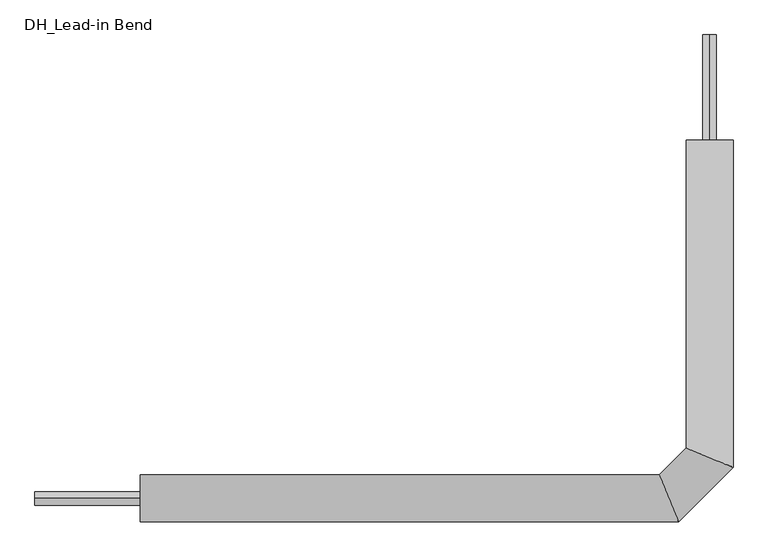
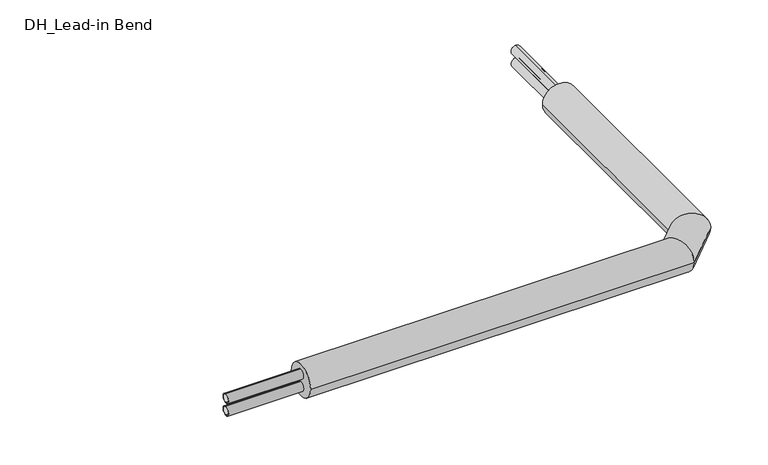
"""IFC4 building model written with IfcOpenShell, lengths in millimetres: pipe fitting geometry, DH_Lead-in Bend : RVT/RVX/RTX DUO 11 Heating Horizontal."""

import ifcopenshell
import ifcopenshell.guid

model = None  # the IFC model being written
_history = None  # IfcOwnerHistory: only IFC2X3 demands one
_inside = {}  # id of a spatial element -> (the spatial element, [elements in it])
_under = {}  # id of a project, library or spatial element -> (it, [spatial elements below it])
_declared = {}  # id of a project -> (the project, [libraries it declares])
_typed = {}  # id of a type object -> (the type object, [elements of that type])
_made_of = {}  # id of a material, layer set ... -> (it, [elements and type objects made of it])


def new_model(schema):
    """Start an empty IFC model of exactly this schema.

    Asked for "IFC4X3", IfcOpenShell would pick the latest addendum, in which some entities
    have other attributes; the version numbers below select the first issue.
    IFC2X3 requires an IfcOwnerHistory on every rooted entity: one is made here for all.
    """
    global model, _history
    if schema == "IFC4X3":
        model = ifcopenshell.file(schema_version=(4, 3, 0, 0))
    else:
        model = ifcopenshell.file(schema=schema)
    _inside.clear()
    _under.clear()
    _declared.clear()
    _typed.clear()
    _made_of.clear()
    _history = None
    if model.schema == "IFC2X3":
        org = make("IfcOrganization", Name="unknown")
        user = make(
            "IfcPersonAndOrganization",
            ThePerson=make("IfcPerson", FamilyName="unknown"),
            TheOrganization=org,
        )
        app = make(
            "IfcApplication",
            ApplicationDeveloper=org,
            Version="unknown",
            ApplicationFullName="unknown",
            ApplicationIdentifier="unknown",
        )
        _history = make(
            "IfcOwnerHistory",
            OwningUser=user,
            OwningApplication=app,
            ChangeAction="ADDED",
            CreationDate=0,
        )
    return model


def make(cls, **values):
    """One entity of the class cls with the attributes given. An attribute that is None is left unset."""
    return model.create_entity(
        cls, **{name: value for name, value in values.items() if value is not None}
    )


def rooted(cls, **values):
    """An entity with a GlobalId (a new one), such as an element, a storey or a relation."""
    return make(cls, GlobalId=ifcopenshell.guid.new(), OwnerHistory=_history, **values)


def si_unit(unit_type, name, prefix=None):
    """IfcSIUnit, for example si_unit("LENGTHUNIT", "METRE", prefix="MILLI")."""
    return make("IfcSIUnit", UnitType=unit_type, Prefix=prefix, Name=name)


def assignment(units):
    """IfcUnitAssignment: the units of a project."""
    return None if units is None else make("IfcUnitAssignment", Units=units)


def point(xyz):
    """IfcCartesianPoint."""
    return None if xyz is None else make("IfcCartesianPoint", Coordinates=xyz)


def direction(xyz):
    """IfcDirection."""
    return None if xyz is None else make("IfcDirection", DirectionRatios=xyz)


def frame(location, z_axis=None, x_axis=None):
    """IfcAxis2Placement3D, a coordinate frame: its origin and axes. An axis left out is left unset."""
    return make(
        "IfcAxis2Placement3D",
        Location=point(location),
        Axis=direction(z_axis),
        RefDirection=direction(x_axis),
    )


def frame_2d(location, x_axis=None):
    """IfcAxis2Placement2D, a coordinate frame in the plane: its origin and x axis."""
    return make(
        "IfcAxis2Placement2D", Location=point(location), RefDirection=direction(x_axis)
    )


def origin():
    """The frame at (0, 0, 0) with its axes left unset."""
    return frame((0.0, 0.0, 0.0))


def place(relative_to, where):
    """IfcLocalPlacement: puts the frame where relative to a parent placement (None: the world)."""
    return make(
        "IfcLocalPlacement", PlacementRelTo=relative_to, RelativePlacement=where
    )


def context(
    kind, dimensions, precision=None, world=None, true_north=None, identifier=None
):
    """IfcGeometricRepresentationContext, for example the 3D "Model" context."""
    return make(
        "IfcGeometricRepresentationContext",
        ContextIdentifier=identifier,
        ContextType=kind,
        CoordinateSpaceDimension=dimensions,
        Precision=precision,
        WorldCoordinateSystem=world,
        TrueNorth=true_north,
    )


def project(units=None, contexts=None):
    """IfcProject with its units and contexts."""
    return rooted(
        "IfcProject",
        Name="project",
        RepresentationContexts=contexts,
        UnitsInContext=assignment(units),
    )


def spatial(cls, under=None, at=None, **own):
    """A site, building, storey or space (cls), placed at a placement, below another one or the project."""
    s = rooted(cls, ObjectPlacement=at, **own)
    if under is not None:
        _under.setdefault(under.id(), (under, []))[1].append(s)
    return s


def circle_curve(where, radius):
    """IfcCircle in the frame where."""
    return make("IfcCircle", Position=where, Radius=radius)


def ellipse_curve(where, semi_axis1, semi_axis2):
    """IfcEllipse in the frame where."""
    return make(
        "IfcEllipse", Position=where, SemiAxis1=semi_axis1, SemiAxis2=semi_axis2
    )


def trimmed(basis, trim1, trim2, sense, master):
    """IfcTrimmedCurve: the piece of a basis curve between two trims."""
    return make(
        "IfcTrimmedCurve",
        BasisCurve=basis,
        Trim1=trim1,
        Trim2=trim2,
        SenseAgreement=sense,
        MasterRepresentation=master,
    )


def segment(curve, same_sense, transition):
    """IfcCompositeCurveSegment."""
    return make(
        "IfcCompositeCurveSegment",
        Transition=transition,
        SameSense=same_sense,
        ParentCurve=curve,
    )


def composite_curve(segments, self_intersect=None):
    """IfcCompositeCurve: segments joined end to end."""
    return make("IfcCompositeCurve", Segments=segments, SelfIntersect=self_intersect)


def outline(outer, holes=None, kind="AREA"):
    """IfcArbitraryClosedProfileDef: a profile drawn as a closed curve; with holes, ...WithVoids."""
    if holes is None:
        return make("IfcArbitraryClosedProfileDef", ProfileType=kind, OuterCurve=outer)
    return make(
        "IfcArbitraryProfileDefWithVoids",
        ProfileType=kind,
        OuterCurve=outer,
        InnerCurves=holes,
    )


def extrude(swept, where, along, depth):
    """IfcExtrudedAreaSolid: the profile swept, set in the frame where, extruded along a direction by depth."""
    return make(
        "IfcExtrudedAreaSolid",
        SweptArea=swept,
        Position=where,
        ExtrudedDirection=direction(along),
        Depth=depth,
    )


def shape(context_of_items, identifier, shape_type, items):
    """IfcShapeRepresentation: the items that make up one representation, for example the "Body"."""
    return make(
        "IfcShapeRepresentation",
        ContextOfItems=context_of_items,
        RepresentationIdentifier=identifier,
        RepresentationType=shape_type,
        Items=items,
    )


def source(mapping_origin, context_of_items, identifier, shape_type, items):
    """IfcRepresentationMap: a shape defined once, which mapped items show again and again."""
    return make(
        "IfcRepresentationMap",
        MappingOrigin=mapping_origin,
        MappedRepresentation=shape(context_of_items, identifier, shape_type, items),
    )


def transform(
    local_origin,
    x_axis=None,
    y_axis=None,
    z_axis=None,
    scale=None,
    scale2=None,
    scale3=None,
    uniform=True,
):
    """IfcCartesianTransformationOperator3D, or its non-uniform kind. x_axis, y_axis, z_axis: its Axis1, 2, 3."""
    if uniform:
        return make(
            "IfcCartesianTransformationOperator3D",
            Axis1=direction(x_axis),
            Axis2=direction(y_axis),
            LocalOrigin=point(local_origin),
            Scale=scale,
            Axis3=direction(z_axis),
        )
    return make(
        "IfcCartesianTransformationOperator3DnonUniform",
        Axis1=direction(x_axis),
        Axis2=direction(y_axis),
        LocalOrigin=point(local_origin),
        Scale=scale,
        Axis3=direction(z_axis),
        Scale2=scale2,
        Scale3=scale3,
    )


def mapped(mapping_source, mapping_target):
    """IfcMappedItem: shows the shape of a source again, moved by a transform."""
    return make(
        "IfcMappedItem", MappingSource=mapping_source, MappingTarget=mapping_target
    )


def made_of(thing, what):
    """Note that an element or type object is made of a material, layer set ...; save() writes the relation."""
    if what is not None:
        _made_of.setdefault(what.id(), (what, []))[1].append(thing)
    return thing


def element(
    cls,
    number,
    at=None,
    inside=None,
    cuts=None,
    type_object=None,
    material=None,
    context=None,
    identifier="Body",
    shape_type=None,
    held_by="IfcProductDefinitionShape",
    body=None,
    shapes=None,
    **own,
):
    """One element of the class cls, such as IfcWall. Its Tag is "e" and its number.

    at: its placement. inside: the storey or other place that contains it. cuts: it is an
    opening in that element (IfcRelVoidsElement). A single representation is given by context,
    identifier, shape_type and body (its items); several are given by shapes. held_by: the class
    of the entity that holds the representations. save() writes the other relations.
    """
    e = rooted(cls, Tag="e%d" % number, ObjectPlacement=at, **own)
    if body is not None:
        shapes = [shape(context, identifier, shape_type, body)]
    if shapes is not None:
        e.Representation = make(held_by, Representations=shapes)
    if inside is not None:
        _inside.setdefault(inside.id(), (inside, []))[1].append(e)
    if cuts is not None:
        rooted(
            "IfcRelVoidsElement", RelatingBuildingElement=cuts, RelatedOpeningElement=e
        )
    if type_object is not None:
        _typed.setdefault(type_object.id(), (type_object, []))[1].append(e)
    return made_of(e, material)


def aggregate(whole, parts):
    """IfcRelAggregates: a whole, such as a stair, and the parts it consists of."""
    return rooted("IfcRelAggregates", RelatingObject=whole, RelatedObjects=parts)


def save(model, path):
    """Write the relations noted so far, then the file.

    IfcRelAggregates (storeys below a building ...), IfcRelContainedInSpatialStructure (elements
    in a storey), IfcRelDefinesByType, IfcRelAssociatesMaterial and IfcRelDeclares: one each for
    every whole, place, type object, material and project.
    """
    for whole, parts in _under.values():
        aggregate(whole, parts)
    for where, things in _inside.values():
        rooted(
            "IfcRelContainedInSpatialStructure",
            RelatedElements=things,
            RelatingStructure=where,
        )
    for kind, things in _typed.values():
        rooted("IfcRelDefinesByType", RelatedObjects=things, RelatingType=kind)
    for what, things in _made_of.values():
        rooted("IfcRelAssociatesMaterial", RelatedObjects=things, RelatingMaterial=what)
    for by, libraries in _declared.values():
        rooted("IfcRelDeclares", RelatingContext=by, RelatedDefinitions=libraries)
    model.write(path)


def plane_surface(at):
    """IfcPlane: the flat surface through the origin of the frame at, square to its z axis."""
    return make("IfcPlane", Position=at)


def cylinder_surface(at, radius):
    """IfcCylindricalSurface: all points at the distance radius from the z axis of the frame at."""
    return make("IfcCylindricalSurface", Position=at, Radius=radius)


def advanced_brep(points, edges, surfaces, faces):
    """IfcAdvancedBrep: a solid bounded by faces that lie on surfaces and meet in shared edges.

    An edge is (start, end): straight between two places in points (the first is 0);
    or (start, end, curve); or (start, end, curve, False) where it runs against its curve.
    A face is (place in surfaces, loops), or (place, loops, False) where it looks against
    its surface's normal. A loop lists edges by number (the first is 1), with a minus sign
    where the edge is run from its end to its start. The first loop is the outer one.
    """
    corners = [point(p) for p in points]
    vertices = [make("IfcVertexPoint", VertexGeometry=c) for c in corners]
    made = []
    for start, end, *more in edges:
        made.append(
            make(
                "IfcEdgeCurve",
                EdgeStart=vertices[start],
                EdgeEnd=vertices[end],
                EdgeGeometry=more[0] if more else make("IfcPolyline", Points=[corners[start], corners[end]]),
                SameSense=more[1] if len(more) > 1 else True,
            )
        )
    hull = []
    for where, loops, *sense in faces:
        bounds = []
        for j, loop in enumerate(loops):
            ring = [make("IfcOrientedEdge", EdgeElement=made[abs(k) - 1], Orientation=k > 0) for k in loop]
            bounds.append(
                make(
                    "IfcFaceOuterBound" if j == 0 else "IfcFaceBound",
                    Bound=make("IfcEdgeLoop", EdgeList=ring),
                    Orientation=True,
                )
            )
        hull.append(make("IfcAdvancedFace", Bounds=bounds, FaceSurface=surfaces[where], SameSense=sense[0] if sense else True))
    return make("IfcAdvancedBrep", Outer=make("IfcClosedShell", CfsFaces=hull))


def dh_lead_in_bend_f2175f49(model_context):
    return source(origin(), model_context, "Body", "SolidModel", [
        extrude(outline(composite_curve([segment(trimmed(circle_curve(frame_2d((0.0, -22.0)), 16.0), [point((0.0, -6.0))], [point((0.0, -38.0))], False, "CARTESIAN"), True, "CONTINUOUS"), segment(trimmed(circle_curve(frame_2d((0.0, -22.0)), 16.0), [point((0.0, -38.0))], [point((0.0, -6.0))], False, "CARTESIAN"), True, "CONTINUOUS")], self_intersect=False), holes=[composite_curve([segment(trimmed(circle_curve(frame_2d((0.0, -22.0)), 13.1), [point((0.0, -8.9))], [point((0.0, -35.1))], True, "CARTESIAN"), True, "CONTINUOUS"), segment(trimmed(circle_curve(frame_2d((0.0, -22.0)), 13.1), [point((0.0, -35.1))], [point((0.0, -8.9))], True, "CARTESIAN"), True, "CONTINUOUS")], self_intersect=False)]), frame((-1600.0, 0.0, 0.0), z_axis=(1.0, 0.0, 0.0), x_axis=(0.0, 1.0, 0.0)), (0.0, 0.0, 1.0), 250.0),
        advanced_brep(
        [(-1350.0, -55.5, 0.0), (-1350.0, 55.5, 0.0), (-73.5111473, -55.5, 0.0), (-119.4888527, 55.5, 0.0), (55.5, 850.0, 0.0), (-55.5, 850.0, 0.0), (-55.5, 119.4888527, 0.0), (55.5, 73.5111473, 0.0)],
        [
            (0, 1, circle_curve(frame((-1350.0, 0.0, 0.0), z_axis=(-1.0, 0.0, 0.0), x_axis=(0.0, 1.0, 0.0)), 55.5)),
            (1, 0, circle_curve(frame((-1350.0, 0.0, 0.0), z_axis=(-1.0, 0.0, 0.0), x_axis=(0.0, 1.0, 0.0)), 55.5)),
            (0, 2),
            (2, 3, ellipse_curve(frame((-96.5, 0.0, 0.0), z_axis=(-0.9238795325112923, -0.38268343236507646, 0.0), x_axis=(-0.38268343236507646, 0.9238795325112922, 0.0)), 60.0727671, 55.5)),
            (3, 1),
            (3, 2, ellipse_curve(frame((-96.5, 0.0, 0.0), z_axis=(-0.9238795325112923, -0.38268343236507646, 0.0), x_axis=(-0.38268343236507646, 0.9238795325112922, 0.0)), 60.0727671, 55.5)),
            (4, 5, circle_curve(frame((0.0, 850.0, 0.0), z_axis=(0.0, 1.0, 0.0), x_axis=(-1.0, 0.0, 0.0)), 55.5)),
            (5, 4, circle_curve(frame((0.0, 850.0, 0.0), z_axis=(0.0, 1.0, 0.0), x_axis=(-1.0, 0.0, 0.0)), 55.5)),
            (6, 7, ellipse_curve(frame((0.0, 96.5, 0.0), z_axis=(0.3826834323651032, 0.9238795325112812, 0.0), x_axis=(0.9238795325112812, -0.3826834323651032, 0.0)), 60.0727671, 55.5)),
            (7, 4),
            (5, 6),
            (7, 6, ellipse_curve(frame((0.0, 96.5, 0.0), z_axis=(0.3826834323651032, 0.9238795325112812, 0.0), x_axis=(0.9238795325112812, -0.3826834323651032, 0.0)), 60.0727671, 55.5)),
            (2, 7),
            (6, 3),
        ],
        [
            plane_surface(frame((-1350.0, 0.0, 0.0), z_axis=(-1.0, 0.0, 0.0), x_axis=(0.0, 0.0, 1.0))),
            cylinder_surface(frame((-1350.0, 0.0, 0.0), z_axis=(-1.0, 0.0, 0.0), x_axis=(0.0, 1.0, 0.0)), 55.5),
            plane_surface(frame((0.0, 850.0, 0.0), z_axis=(0.0, 1.0, 0.0), x_axis=(0.0, 0.0, 1.0))),
            cylinder_surface(frame((0.0, 96.5, 0.0), z_axis=(0.0, -1.0, 0.0), x_axis=(-1.0, 0.0, 0.0)), 55.5),
            cylinder_surface(frame((-96.5, 0.0, 0.0), z_axis=(-0.707106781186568, -0.7071067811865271, 0.0), x_axis=(-0.7071067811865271, 0.707106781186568, 0.0)), 55.5),
        ],
        [
            (0, [[1, 2]]),
            (1, [[-1, 3, 4, 5]]),
            (1, [[-2, -5, 6, -3]]),
            (2, [[7, 8]]),
            (3, [[9, 10, -8, 11]]),
            (3, [[12, -11, -7, -10]]),
            (4, [[-4, 13, -9, 14]]),
            (4, [[-6, -14, -12, -13]]),
        ],
    ),
        extrude(outline(composite_curve([segment(trimmed(circle_curve(frame_2d((22.0, 0.0)), 16.0), [point((6.0, 0.0))], [point((38.0, 0.0))], False, "CARTESIAN"), True, "CONTINUOUS"), segment(trimmed(circle_curve(frame_2d((22.0, 0.0)), 16.0), [point((38.0, 0.0))], [point((6.0, 0.0))], False, "CARTESIAN"), True, "CONTINUOUS")], self_intersect=False), holes=[composite_curve([segment(trimmed(circle_curve(frame_2d((22.0, 0.0)), 13.1), [point((8.9, 0.0))], [point((35.1, 0.0))], True, "CARTESIAN"), True, "CONTINUOUS"), segment(trimmed(circle_curve(frame_2d((22.0, 0.0)), 13.1), [point((35.1, 0.0))], [point((8.9, 0.0))], True, "CARTESIAN"), True, "CONTINUOUS")], self_intersect=False)]), frame((0.0, 850.0, 0.0), z_axis=(0.0, 1.0, 0.0), x_axis=(0.0, 0.0, 1.0)), (0.0, 0.0, 1.0), 250.0),
        extrude(outline(composite_curve([segment(trimmed(circle_curve(frame_2d((0.0, 22.0)), 16.0), [point((0.0, 6.0))], [point((0.0, 38.0))], False, "CARTESIAN"), True, "CONTINUOUS"), segment(trimmed(circle_curve(frame_2d((0.0, 22.0)), 16.0), [point((0.0, 38.0))], [point((0.0, 6.0))], False, "CARTESIAN"), True, "CONTINUOUS")], self_intersect=False), holes=[composite_curve([segment(trimmed(circle_curve(frame_2d((0.0, 22.0)), 13.1), [point((0.0, 8.9))], [point((0.0, 35.1))], True, "CARTESIAN"), True, "CONTINUOUS"), segment(trimmed(circle_curve(frame_2d((0.0, 22.0)), 13.1), [point((0.0, 35.1))], [point((0.0, 8.9))], True, "CARTESIAN"), True, "CONTINUOUS")], self_intersect=False)]), frame((-1600.0, 0.0, 0.0), z_axis=(1.0, 0.0, 0.0), x_axis=(0.0, 1.0, 0.0)), (0.0, 0.0, 1.0), 250.0),
        extrude(outline(composite_curve([segment(trimmed(circle_curve(frame_2d((-22.0, 0.0)), 16.0), [point((-6.0, 0.0))], [point((-38.0, 0.0))], False, "CARTESIAN"), True, "CONTINUOUS"), segment(trimmed(circle_curve(frame_2d((-22.0, 0.0)), 16.0), [point((-38.0, 0.0))], [point((-6.0, 0.0))], False, "CARTESIAN"), True, "CONTINUOUS")], self_intersect=False), holes=[composite_curve([segment(trimmed(circle_curve(frame_2d((-22.0, 0.0)), 13.1), [point((-8.9, 0.0))], [point((-35.1, 0.0))], True, "CARTESIAN"), True, "CONTINUOUS"), segment(trimmed(circle_curve(frame_2d((-22.0, 0.0)), 13.1), [point((-35.1, 0.0))], [point((-8.9, 0.0))], True, "CARTESIAN"), True, "CONTINUOUS")], self_intersect=False)]), frame((0.0, 850.0, 0.0), z_axis=(0.0, 1.0, 0.0), x_axis=(0.0, 0.0, 1.0)), (0.0, 0.0, 1.0), 250.0),
    ])


if __name__ == "__main__":
    model = new_model("IFC4")
    model_context = context("Model", 3, world=origin())
    ifc_project = project(units=[si_unit("LENGTHUNIT", "METRE", prefix="MILLI")], contexts=[model_context])
    site = spatial("IfcSite", under=ifc_project)
    building = spatial("IfcBuilding", under=site)
    placement = place(None, origin())
    dh_lead_in_bend_shape = dh_lead_in_bend_f2175f49(model_context)
    element("IfcPipeFitting", 1, ObjectType="DH_Lead-in Bend : RVT/RVX/RTX DUO 11 Heating Horizontal", at=placement, inside=building, context=model_context, shape_type="MappedRepresentation", body=[
        mapped(dh_lead_in_bend_shape, transform((0.0, 0.0, 0.0), x_axis=(1.0, 0.0, 0.0), y_axis=(0.0, 1.0, 0.0), z_axis=(0.0, 0.0, 1.0))),
    ])
    save(model, "model.ifc")
